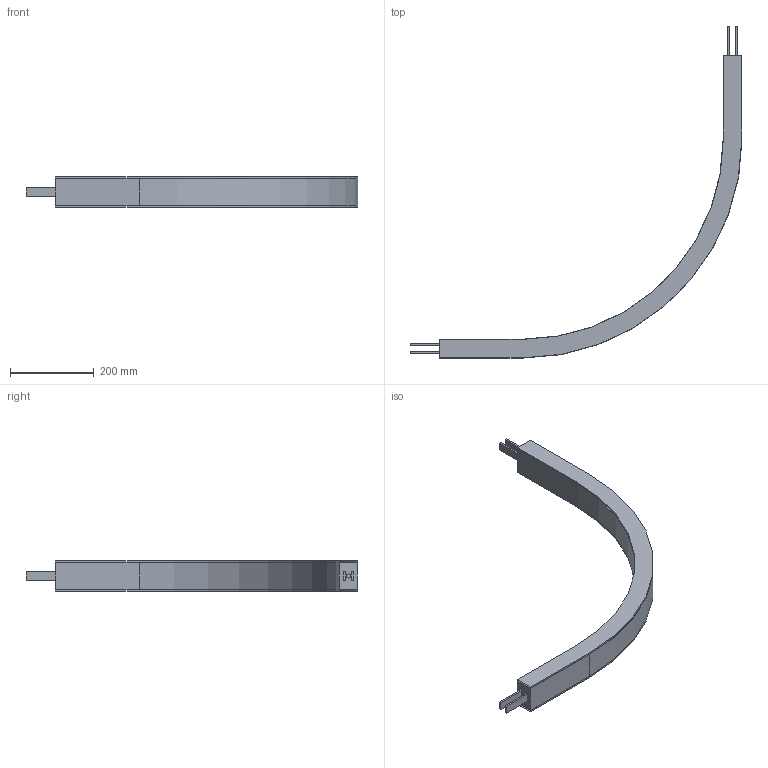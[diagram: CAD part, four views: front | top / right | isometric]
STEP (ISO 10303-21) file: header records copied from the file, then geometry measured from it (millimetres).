
FILE_DESCRIPTION(/* description */ ('Horizontaler Gleitbogen, 90°, R500'),/* implementation_level */ '2;1');
FILE_NAME(/* name */ 'T:\vdz0\Step Daten Website\modulflex FS-System\Horizontale Gleitbögen\FSBP90R500_53809.stp',/* time_stamp */ '2024-08-21T10:22:16+02:00',/* author */ ('lzb0'),/* organization */ ('modular automation GmbH'),/* preprocessor_version */ 'ST-DEVELOPER v18.1',/* originating_system */ 'Autodesk Inventor 2021',/* authorisation */ '');
FILE_SCHEMA (('AUTOMOTIVE_DESIGN { 1 0 10303 214 3 1 1 }'));
Length unit declared in the file: millimetre
Products named in the file (1): FSBP 90R500
Bounding box: 792.5 x 792.5 x 72.2 mm (x, y, z)
Volume: 3480615.3 mm3; surface area: 521693.7 mm2
Topology: 5 solids, 9 shells, 52 faces, 126 edges, 84 vertices
Faces by surface type: plane 44, cylinder 8
Full cylindrical faces by diameter (mm): 10 x2
Entity records: 1596 total; most frequent: CARTESIAN_POINT 270, DIRECTION 250, ORIENTED_EDGE 232, EDGE_CURVE 126, LINE 110, VECTOR 110, VERTEX_POINT 84, AXIS2_PLACEMENT_3D 70
